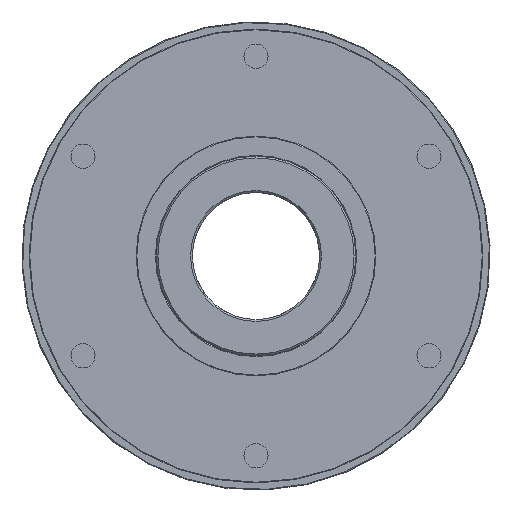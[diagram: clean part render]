
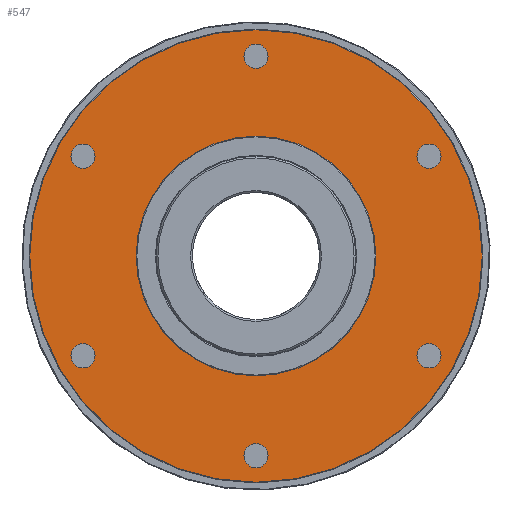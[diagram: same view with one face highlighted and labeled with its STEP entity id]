
A CAD part, left-side view. The second image highlights one B-rep face of the part: STEP entity #547.
In plain terms, the highlighted planar face has unit normal (-1, 0, 0).
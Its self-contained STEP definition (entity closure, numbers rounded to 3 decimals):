
#547 = ADVANCED_FACE( '', ( #1098, #1099, #1100, #1101, #1102, #1103, #1104, #1105 ), #1106, .T. );
#1098 = FACE_BOUND( '', #1752, .T. );
#1099 = FACE_BOUND( '', #1753, .T. );
#1100 = FACE_BOUND( '', #1754, .T. );
#1101 = FACE_BOUND( '', #1755, .T. );
#1102 = FACE_BOUND( '', #1756, .T. );
#1103 = FACE_BOUND( '', #1757, .T. );
#1104 = FACE_OUTER_BOUND( '', #1758, .T. );
#1105 = FACE_BOUND( '', #1759, .T. );
#1106 = PLANE( '', #1760 );
#1752 = EDGE_LOOP( '', ( #2549 ) );
#1753 = EDGE_LOOP( '', ( #2550 ) );
#1754 = EDGE_LOOP( '', ( #2551 ) );
#1755 = EDGE_LOOP( '', ( #2552 ) );
#1756 = EDGE_LOOP( '', ( #2553 ) );
#1757 = EDGE_LOOP( '', ( #2554 ) );
#1758 = EDGE_LOOP( '', ( #2555 ) );
#1759 = EDGE_LOOP( '', ( #2556 ) );
#1760 = AXIS2_PLACEMENT_3D( '', #2557, #2558, #2559 );
#2549 = ORIENTED_EDGE( '', *, *, #3282, .T. );
#2550 = ORIENTED_EDGE( '', *, *, #3328, .T. );
#2551 = ORIENTED_EDGE( '', *, *, #3350, .T. );
#2552 = ORIENTED_EDGE( '', *, *, #3351, .T. );
#2553 = ORIENTED_EDGE( '', *, *, #3342, .T. );
#2554 = ORIENTED_EDGE( '', *, *, #3352, .T. );
#2555 = ORIENTED_EDGE( '', *, *, #3353, .T. );
#2556 = ORIENTED_EDGE( '', *, *, #3140, .F. );
#2557 = CARTESIAN_POINT( '', ( 29.5, 0., 33. ) );
#2558 = DIRECTION( '', ( -1., 0., 0. ) );
#2559 = DIRECTION( '', ( 0., 0., 1. ) );
#3140 = EDGE_CURVE( '', #3509, #3509, #3510, .T. );
#3282 = EDGE_CURVE( '', #3742, #3742, #3743, .T. );
#3328 = EDGE_CURVE( '', #3811, #3811, #3812, .T. );
#3342 = EDGE_CURVE( '', #3833, #3833, #3834, .T. );
#3350 = EDGE_CURVE( '', #3845, #3845, #3846, .T. );
#3351 = EDGE_CURVE( '', #3847, #3847, #3848, .T. );
#3352 = EDGE_CURVE( '', #3849, #3849, #3850, .T. );
#3353 = EDGE_CURVE( '', #3851, #3851, #3852, .T. );
#3509 = VERTEX_POINT( '', #4057 );
#3510 = CIRCLE( '', #4058, 33. );
#3742 = VERTEX_POINT( '', #4490 );
#3743 = CIRCLE( '', #4491, 3.324 );
#3811 = VERTEX_POINT( '', #4583 );
#3812 = CIRCLE( '', #4584, 3.324 );
#3833 = VERTEX_POINT( '', #4606 );
#3834 = CIRCLE( '', #4607, 3.324 );
#3845 = VERTEX_POINT( '', #4618 );
#3846 = CIRCLE( '', #4619, 3.324 );
#3847 = VERTEX_POINT( '', #4620 );
#3848 = CIRCLE( '', #4621, 3.324 );
#3849 = VERTEX_POINT( '', #4622 );
#3850 = CIRCLE( '', #4623, 3.324 );
#3851 = VERTEX_POINT( '', #4624 );
#3852 = CIRCLE( '', #4625, 62.3 );
#4057 = CARTESIAN_POINT( '', ( 29.5, 0., 33. ) );
#4058 = AXIS2_PLACEMENT_3D( '', #5081, #5082, #5083 );
#4490 = CARTESIAN_POINT( '', ( 29.5, 50.51, 29.162 ) );
#4491 = AXIS2_PLACEMENT_3D( '', #5314, #5315, #5316 );
#4583 = CARTESIAN_POINT( '', ( 29.5, 50.51, -29.162 ) );
#4584 = AXIS2_PLACEMENT_3D( '', #5377, #5378, #5379 );
#4606 = CARTESIAN_POINT( '', ( 29.5, -50.51, 29.162 ) );
#4607 = AXIS2_PLACEMENT_3D( '', #5402, #5403, #5404 );
#4618 = CARTESIAN_POINT( '', ( 29.5, 0., -58.324 ) );
#4619 = AXIS2_PLACEMENT_3D( '', #5414, #5415, #5416 );
#4620 = CARTESIAN_POINT( '', ( 29.5, -50.51, -29.162 ) );
#4621 = AXIS2_PLACEMENT_3D( '', #5417, #5418, #5419 );
#4622 = CARTESIAN_POINT( '', ( 29.5, 0., 58.324 ) );
#4623 = AXIS2_PLACEMENT_3D( '', #5420, #5421, #5422 );
#4624 = CARTESIAN_POINT( '', ( 29.5, 0., 62.3 ) );
#4625 = AXIS2_PLACEMENT_3D( '', #5423, #5424, #5425 );
#5081 = CARTESIAN_POINT( '', ( 29.5, 0., 0. ) );
#5082 = DIRECTION( '', ( -1., 0., 0. ) );
#5083 = DIRECTION( '', ( 0., 0., 1. ) );
#5314 = CARTESIAN_POINT( '', ( 29.5, 47.631, 27.5 ) );
#5315 = DIRECTION( '', ( 1., 0., 0. ) );
#5316 = DIRECTION( '', ( 0., 0.866, 0.5 ) );
#5377 = CARTESIAN_POINT( '', ( 29.5, 47.631, -27.5 ) );
#5378 = DIRECTION( '', ( 1., 0., 0. ) );
#5379 = DIRECTION( '', ( 0., 0.866, -0.5 ) );
#5402 = CARTESIAN_POINT( '', ( 29.5, -47.631, 27.5 ) );
#5403 = DIRECTION( '', ( 1., 0., 0. ) );
#5404 = DIRECTION( '', ( 0., -0.866, 0.5 ) );
#5414 = CARTESIAN_POINT( '', ( 29.5, 0., -55. ) );
#5415 = DIRECTION( '', ( 1., 0., 0. ) );
#5416 = DIRECTION( '', ( 0., 0., -1. ) );
#5417 = CARTESIAN_POINT( '', ( 29.5, -47.631, -27.5 ) );
#5418 = DIRECTION( '', ( 1., 0., 0. ) );
#5419 = DIRECTION( '', ( 0., -0.866, -0.5 ) );
#5420 = CARTESIAN_POINT( '', ( 29.5, 0., 55. ) );
#5421 = DIRECTION( '', ( 1., 0., 0. ) );
#5422 = DIRECTION( '', ( 0., 0., 1. ) );
#5423 = CARTESIAN_POINT( '', ( 29.5, 0., 0. ) );
#5424 = DIRECTION( '', ( -1., 0., 0. ) );
#5425 = DIRECTION( '', ( 0., 0., 1. ) );
